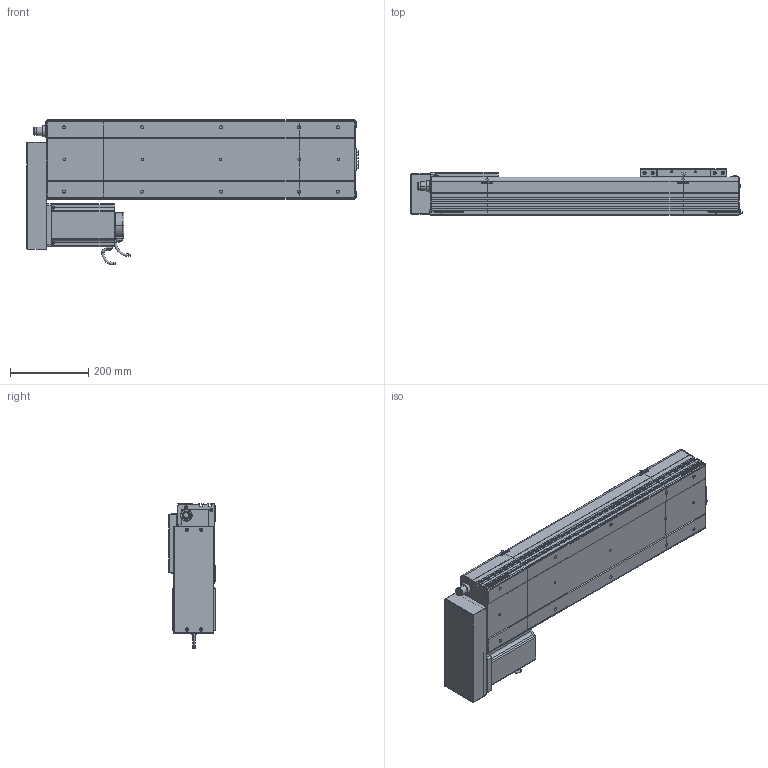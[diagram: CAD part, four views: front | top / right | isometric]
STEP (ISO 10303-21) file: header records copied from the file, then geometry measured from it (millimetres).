
FILE_DESCRIPTION (( 'STEP AP214' ), '1' );
FILE_NAME ('D20 CSH BR S500.STEP', '2010-06-30T07:59:51', ( 'Conseil Régional Haute-Normandie' ), ( 'Conseil Régional Haute-Normandie' ), 'SwSTEP 2.0', 'SolidWorks 2010', '' );
FILE_SCHEMA (( 'AUTOMOTIVE_DESIGN' ));
Length unit declared in the file: millimetre
Products named in the file (31): avant 110BLDC170A-630x; corps 110BLDC170A-630x; codeur 110BLDC170A-630x; ecrou_Default; vis M5 L15_Default; vis M5 L47_Default; Cache Moteur BR D20_Default; vis M5 L30_Default; clavette; Conecteur_Default; Conecteur2_Default; Tail D20+100_Default; D20 CSH BR S500; Plaque de Bout Tail D20_Default; Couvercle_Default; Corp Tail D20+100_Default; Corp S500_Default; Corp D20 S500_Default; Plaque De Serrage D20_Default; Support Chariot D20_Default; Chariot D20_Default; Couvercle S500_Default; Head D20 BR_Default; Glissiere_Default; Corp Head BR D20_Default; Support moteur BR D20_Default; Plaque de Bout Head BR D20_Default; Moteur motionking 110BLDC170A-640x; Plaque De Serrage Head BR D20_Default; Couvercle Head BR_Default
Assembly tree (60 placements, depth 4):
  D20 CSH BR S500
    Tail D20+100_Default
      Plaque de Bout Tail D20_Default
      Couvercle_Default
      vis M5 L15_Default  x6
      Plaque De Serrage D20_Default
      Corp Tail D20+100_Default
    Head D20 BR_Default
      Cache Moteur BR D20_Default
      vis M5 L15_Default  x8
      Plaque De Serrage Head BR D20_Default
      Moteur motionking 110BLDC170A-640x
        Conecteur2_Default
        codeur 110BLDC170A-630x
        avant 110BLDC170A-630x
        clavette
        Conecteur_Default
        corps 110BLDC170A-630x
      vis M5 L30_Default  x4
      vis M5 L47_Default  x4
      ecrou_Default  x4
      Plaque de Bout Head BR D20_Default
      Corp Head BR D20_Default
      Support moteur BR D20_Default
      Couvercle Head BR_Default
    Chariot D20_Default
      vis M5 L15_Default  x8
      Support Chariot D20_Default
      Chariot D20_Default
      Glissiere_Default
    Corp D20 S500_Default
      Couvercle S500_Default
      Corp S500_Default
Bounding box: 847.7 x 120 x 372 mm (x, y, z)
Volume: 8017458.3 mm3; surface area: 1542300.4 mm2
Topology: 97 solids, 97 shells, 3550 faces, 8933 edges, 5817 vertices
Faces by surface type: plane 2003, bspline 806, cylinder 595, torus 83, cone 63
Entity records: 156449 total; most frequent: CARTESIAN_POINT 81804, ORIENTED_EDGE 14814, DIRECTION 11031, EDGE_CURVE 7407, VERTEX_POINT 4905, VECTOR 4871, LINE 4871, EDGE_LOOP 3144
